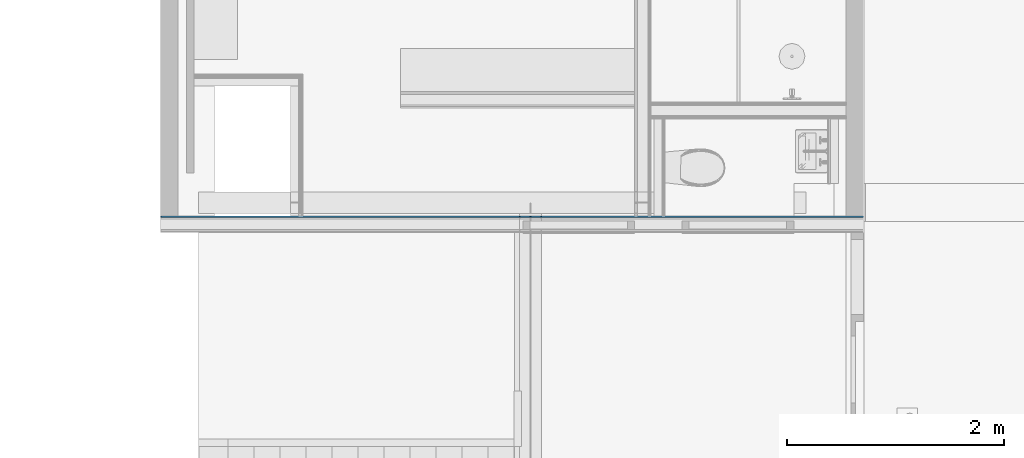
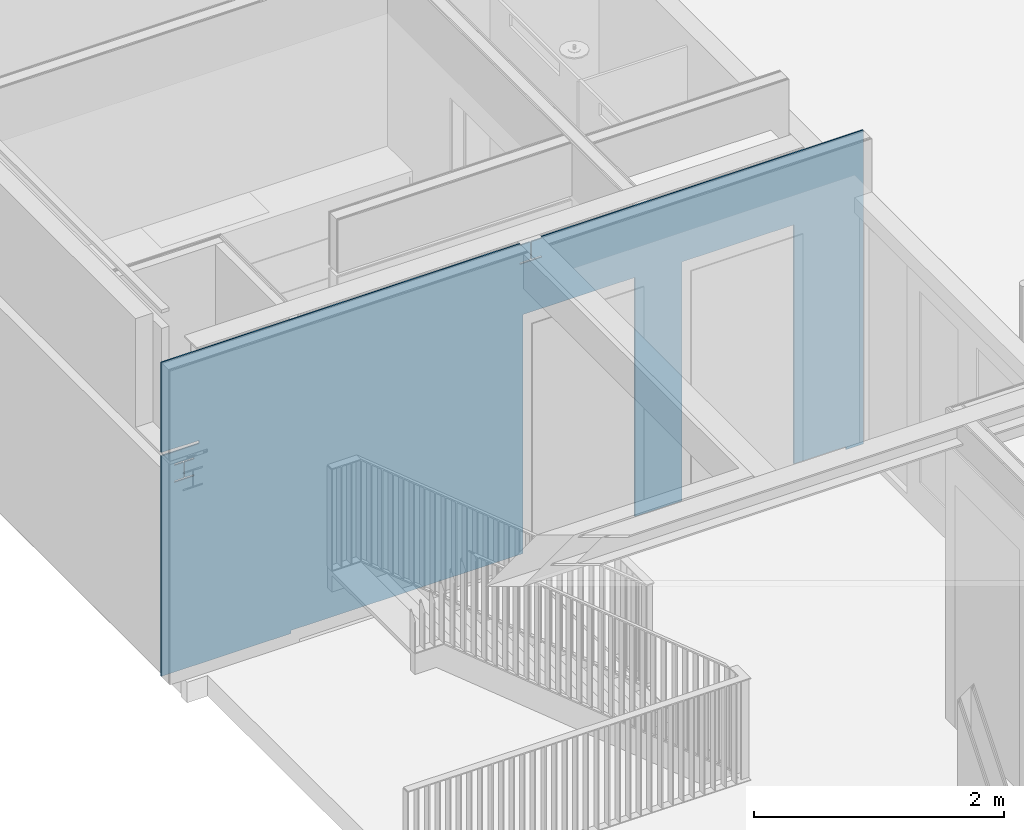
# One storey, part 19 of 35: 1 building element part, 2 openings, 1 element without a shape of its own.
"""IFC2X3 building model written with IfcOpenShell, lengths in millimetres."""

from ifc_helpers import new_model, entity, si_unit, converted_unit, derived_unit, money_unit, direction, frame, origin_with_axes, place, context, subcontext, project, spatial, faceted_brep, material, type_object, element, aggregate, save


model = new_model("IFC2X3")

# Units and contexts
model_context = context("Model", 3, precision=0.01, world=origin_with_axes(), true_north=direction((0.0, 1.0)))
body_context = subcontext(model_context, "Body", "Model", "MODEL_VIEW")
ifc_project = project(units=[si_unit("LENGTHUNIT", "METRE", prefix="MILLI"), si_unit("AREAUNIT", "SQUARE_METRE"), si_unit("VOLUMEUNIT", "CUBIC_METRE"), converted_unit("PLANEANGLEUNIT", "DEGREE", entity("IfcPlaneAngleMeasure", 0.0174532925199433), si_unit("PLANEANGLEUNIT", "RADIAN"), dimensions=[0, 0, 0, 0, 0, 0, 0]), money_unit("EUR"), converted_unit("TIMEUNIT", "Year", entity("IfcTimeMeasure", 31557600.0), si_unit("TIMEUNIT", "SECOND"), dimensions=[0, 0, 1, 0, 0, 0, 0]), si_unit("MASSUNIT", "GRAM", prefix="KILO"), si_unit("THERMODYNAMICTEMPERATUREUNIT", "DEGREE_CELSIUS"), si_unit("LUMINOUSINTENSITYUNIT", "LUMEN"), si_unit("ENERGYUNIT", "JOULE", prefix="MEGA"), derived_unit("THERMALCONDUCTANCEUNIT", [(si_unit("POWERUNIT", "WATT"), 1), (si_unit("LENGTHUNIT", "METRE"), -1), (si_unit("THERMODYNAMICTEMPERATUREUNIT", "KELVIN"), -1)]), derived_unit("SPECIFICHEATCAPACITYUNIT", [(si_unit("ENERGYUNIT", "JOULE"), 1), (si_unit("MASSUNIT", "GRAM", prefix="KILO"), -1), (si_unit("THERMODYNAMICTEMPERATUREUNIT", "KELVIN"), -1)]), derived_unit("MASSDENSITYUNIT", [(si_unit("MASSUNIT", "GRAM", prefix="KILO"), 1), (si_unit("VOLUMEUNIT", "CUBIC_METRE"), -1)])], contexts=[model_context])

# Site, building, storey
site_placement = place(None, origin_with_axes())
site = spatial("IfcSite", under=ifc_project, at=site_placement, Name="<site naam>", CompositionType="ELEMENT")
building_placement = place(site_placement, origin_with_axes())
building = spatial("IfcBuilding", under=site, at=building_placement, Name="<Naam gebouw>", CompositionType="ELEMENT")
storey_placement = place(building_placement, frame((0.0, 0.0, 6345.0), z_axis=(0.0, 0.0, 1.0), x_axis=(1.0, 0.0, 0.0)))
storey = spatial("IfcBuildingStorey", under=building, at=storey_placement, Name="02 2e tussenverdieping", CompositionType="ELEMENT", Elevation=6345.0)

# Wall, openings, building element part
wall_type = type_object("IfcWallType", Name="MS-01 GF 150 ECO DGS/2.100.2.A 150", PredefinedType="NOTDEFINED")
wall_placement = place(storey_placement, frame((58317.78284470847, 11725.00000000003, -30.00000000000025), z_axis=(0.0, 0.0, 1.0), x_axis=(-1.0, 0.0, 0.0)))
wall = element("IfcWall", 1, at=wall_placement, inside=storey, type_object=wall_type, Name="22_Binnenwand_MS-01")
opening_1_placement = place(wall_placement, frame((1159.782844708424, 0.0, 0.0), z_axis=(0.0, 0.0, 1.0), x_axis=(1.0, 0.0, 0.0)))
element("IfcOpeningElement", 2, at=opening_1_placement, cuts=wall, Name="22_BI-A-06_305", context=body_context, shape_type="Brep", body=[
    faceted_brep([(-517.000000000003, -151.0000000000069, 2366.999999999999), (-517.000000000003, -151.0000000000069, 0.0), (517.000000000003, -151.0000000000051, 0.0), (517.000000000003, -151.0000000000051, 2366.999999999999), (-517.000000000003, 0.9999999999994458, 2366.999999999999), (-517.000000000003, 0.9999999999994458, 0.0), (517.000000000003, 1.000000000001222, 0.0), (517.000000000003, 1.000000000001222, 2366.999999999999)], [[[0, 1, 2, 3]], [[4, 5, 1, 0]], [[5, 6, 2, 1]], [[6, 7, 3, 2]], [[7, 4, 0, 3]], [[6, 5, 4, 7]]]),
])
opening_2_placement = place(wall_placement, frame((2629.747141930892, 0.0, 0.0), z_axis=(0.0, 0.0, 1.0), x_axis=(1.0, 0.0, 0.0)))
element("IfcOpeningElement", 3, at=opening_2_placement, cuts=wall, Name="22_BI-A-06_305", context=body_context, shape_type="Brep", body=[
    faceted_brep([(-517.000000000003, -151.0000000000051, 2366.999999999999), (-517.000000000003, -151.0000000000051, 0.0), (517.000000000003, -151.0000000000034, 0.0), (517.000000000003, -151.0000000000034, 2366.999999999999), (-517.000000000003, 1.000000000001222, 2366.999999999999), (-517.000000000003, 1.000000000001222, 0.0), (517.000000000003, 1.000000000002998, 0.0), (517.000000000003, 1.000000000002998, 2366.999999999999)], [[[0, 1, 2, 3]], [[4, 5, 1, 0]], [[5, 6, 2, 1]], [[6, 7, 3, 2]], [[7, 4, 0, 3]], [[6, 5, 4, 7]]]),
])
ifc_material = material(Name="gipsplaat")
building_element_part_placement = place(wall_placement, origin_with_axes())
building_element_part = element("IfcBuildingElementPart", 4, at=building_element_part_placement, material=ifc_material, Name="gipsplaat", context=body_context, shape_type="Brep", body=[
    faceted_brep([(3080.184486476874, -137.4999999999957, 3052.999988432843), (3175.684489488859, -137.4999999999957, 3052.999993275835), (3175.684489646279, -137.4999999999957, 3068.00000071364), (6492.782844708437, -137.499999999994, 3068.000000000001), (6492.782844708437, -137.499999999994, 2188.0), (6317.782844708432, -137.499999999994, 2188.0), (6317.782844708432, -137.499999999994, 2185.0), (6143.382804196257, -137.499999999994, 2185.0), (6143.382804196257, -137.499999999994, 2155.000000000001), (6492.782844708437, -137.499999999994, 2155.000000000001), (6492.782844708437, -137.499999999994, 0.0), (5292.782844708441, -137.499999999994, 0.0), (5292.782844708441, -137.499999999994, 30.00000000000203), (3146.747120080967, -137.4999999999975, 30.00000000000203), (3146.747120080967, -137.4999999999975, 33.00000000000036), (2112.747137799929, -137.4999999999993, 33.00000000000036), (2112.747137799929, -137.4999999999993, 30.00000000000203), (1676.782887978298, -137.4999999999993, 30.00000000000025), (1676.782887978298, -137.4999999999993, 33.00000000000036), (642.7828803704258, -137.5000000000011, 33.00000000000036), (642.7828803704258, -137.5000000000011, 30.00000000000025), (160.0002409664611, -137.5000000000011, 30.00000000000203), (160.0002409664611, -137.4999999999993, 0.0), (0.0, -137.4999999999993, 0.0), (0.0, -137.4999999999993, 3068.000000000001), (2975.684483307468, -137.4999999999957, 3068.00000071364), (2975.684483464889, -137.4999999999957, 3052.999993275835), (3071.184486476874, -137.4999999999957, 3052.999988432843), (3071.184486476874, -137.4999999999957, 2883.000003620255), (2975.684483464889, -137.4999999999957, 2882.999999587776), (2975.684483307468, -137.4999999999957, 2867.99999214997), (3175.684489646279, -137.4999999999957, 2867.99999214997), (3175.684489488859, -137.4999999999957, 2882.999999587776), (3080.184486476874, -137.4999999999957, 2883.000003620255), (6285.133011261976, -137.4999999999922, 2020.99993879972), (6370.88302331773, -137.4999999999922, 2020.99993879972), (6370.883025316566, -137.4999999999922, 2035.000018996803), (6190.882997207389, -137.4999999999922, 2035.000018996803), (6190.882999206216, -137.4999999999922, 2020.99993879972), (6276.633011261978, -137.4999999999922, 2020.99993879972), (6276.633011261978, -137.4999999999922, 1869.000038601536), (6190.882999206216, -137.4999999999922, 1869.000038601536), (6190.882997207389, -137.4999999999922, 1854.999958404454), (6370.883025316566, -137.4999999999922, 1854.999958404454), (6370.88302331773, -137.4999999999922, 1869.000038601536), (6285.133011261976, -137.4999999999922, 1869.000038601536), (3080.184486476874, -149.999999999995, 3052.999988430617), (3175.684489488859, -149.999999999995, 3052.999993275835), (3175.684489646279, -149.9999999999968, 3068.00000071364), (6492.782844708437, -149.9999999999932, 3068.000000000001), (6492.782844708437, -149.9999999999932, 2188.0), (6317.782844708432, -149.9999999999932, 2188.0), (6317.782844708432, -149.9999999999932, 2185.0), (6143.382804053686, -149.9999999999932, 2185.0), (6143.382804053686, -149.9999999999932, 2155.000000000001), (6492.782844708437, -149.9999999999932, 2155.000000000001), (6492.782844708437, -149.9999999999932, 0.0), (5292.782844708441, -150.0000000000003, 0.0), (5292.782844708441, -149.9999999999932, 30.00000000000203), (3223.161026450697, -150.0000000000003, 30.00000000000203), (3146.747120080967, -149.9999999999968, 30.00000000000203), (5180.282844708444, -150.0000000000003, 30.00000000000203), (3146.747120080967, -149.9999999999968, 33.00000000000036), (2112.747137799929, -149.9999999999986, 33.00000000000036), (2112.747137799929, -149.9999999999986, 30.00000000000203), (1676.782887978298, -149.9999999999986, 30.00000000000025), (1676.782887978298, -149.9999999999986, 33.00000000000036), (642.7828803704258, -150.0000000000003, 33.00000000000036), (642.7828803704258, -150.0000000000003, 30.00000000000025), (160.0002409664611, -150.0000000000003, 30.00000000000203), (160.0002409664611, -150.0000000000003, 0.0), (0.0, -150.0000000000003, 0.0), (0.0, -150.0000000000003, 3068.000000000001), (2975.684483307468, -149.9999999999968, 3068.00000071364), (2975.684483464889, -149.999999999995, 3052.999993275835), (3071.184486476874, -149.999999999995, 3052.999988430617), (3071.184486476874, -149.999999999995, 2883.000003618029), (2975.684483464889, -149.999999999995, 2882.999999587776), (2975.684483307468, -149.999999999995, 2867.99999214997), (3175.684489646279, -149.999999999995, 2867.99999214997), (3175.684489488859, -149.999999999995, 2882.999999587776), (3080.184486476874, -149.999999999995, 2883.000003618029), (6285.133011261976, -149.9999999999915, 2020.99993879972), (6370.88302331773, -149.9999999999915, 2020.99993879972), (6370.883025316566, -149.9999999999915, 2035.000018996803), (6190.882997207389, -149.9999999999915, 2035.000018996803), (6190.882999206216, -149.9999999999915, 2020.99993879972), (6276.633011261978, -149.9999999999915, 2020.99993879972), (6276.633011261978, -149.9999999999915, 1869.000038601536), (6190.882999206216, -149.9999999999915, 1869.000038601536), (6190.882997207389, -149.9999999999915, 1854.999958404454), (6370.883025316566, -149.9999999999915, 1854.999958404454), (6370.88302331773, -149.9999999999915, 1869.000038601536), (6285.133011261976, -149.9999999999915, 1869.000038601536)], [[[0, 1, 2, 3, 4, 5, 6, 7, 8, 9, 10, 11, 12, 13, 14, 15, 16, 17, 18, 19, 20, 21, 22, 23, 24, 25, 26, 27, 28, 29, 30, 31, 32, 33], [34, 35, 36, 37, 38, 39, 40, 41, 42, 43, 44, 45]], [[0, 46, 47, 1]], [[1, 47, 48, 2]], [[3, 2, 48, 49]], [[3, 49, 50, 4]], [[5, 4, 50, 51]], [[5, 51, 52, 6]], [[7, 6, 52, 53]], [[8, 7, 53, 54]], [[9, 8, 54, 55]], [[56, 10, 9, 55]], [[10, 56, 57, 11]], [[12, 11, 57, 58]], [[59, 60, 13, 12, 58, 61]], [[62, 14, 13, 60]], [[15, 14, 62, 63]], [[15, 63, 64, 16]], [[16, 64, 65, 17]], [[18, 17, 65, 66]], [[19, 18, 66, 67]], [[20, 19, 67, 68]], [[69, 21, 20, 68]], [[22, 21, 69, 70]], [[71, 23, 22, 70]], [[71, 72, 24, 23]], [[72, 73, 25, 24]], [[26, 25, 73, 74]], [[26, 74, 75, 27]], [[27, 75, 76, 28]], [[28, 76, 77, 29]], [[29, 77, 78, 30]], [[30, 78, 79, 31]], [[31, 79, 80, 32]], [[32, 80, 81, 33]], [[33, 81, 46, 0]], [[34, 82, 83, 35]], [[35, 83, 84, 36]], [[36, 84, 85, 37]], [[37, 85, 86, 38]], [[38, 86, 87, 39]], [[39, 87, 88, 40]], [[40, 88, 89, 41]], [[41, 89, 90, 42]], [[42, 90, 91, 43]], [[43, 91, 92, 44]], [[44, 92, 93, 45]], [[45, 93, 82, 34]], [[76, 75, 74, 73, 72, 71, 70, 69, 68, 67, 66, 65, 64, 63, 62, 60, 59, 61, 58, 57, 56, 55, 54, 53, 52, 51, 50, 49, 48, 47, 46, 81, 80, 79, 78, 77], [88, 87, 86, 85, 84, 83, 82, 93, 92, 91, 90, 89]]]),
])
aggregate(wall, [building_element_part])

save(model, "model.ifc")
